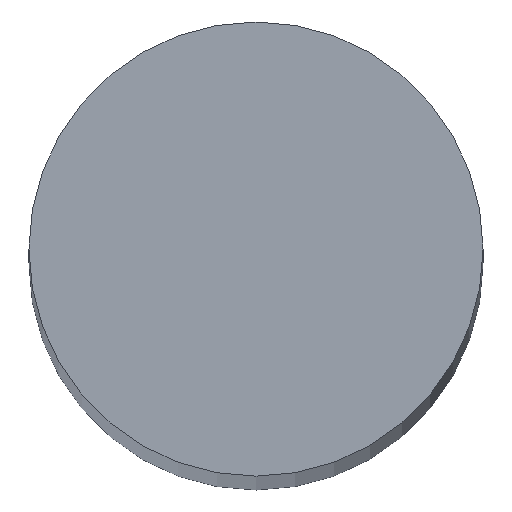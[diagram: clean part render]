
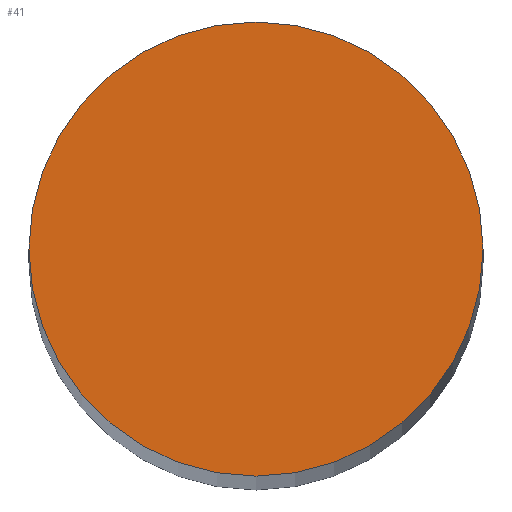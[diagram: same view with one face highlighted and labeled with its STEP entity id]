
A CAD part, top view. The second image highlights one B-rep face of the part: STEP entity #41.
In plain terms, the highlighted planar face has unit normal (0, 0, 1).
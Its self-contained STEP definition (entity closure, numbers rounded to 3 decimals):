
#16=PLANE('',#66);
#19=FACE_OUTER_BOUND('',#22,.T.);
#22=EDGE_LOOP('',(#37));
#25=CIRCLE('',#63,10.);
#27=VERTEX_POINT('',#82);
#29=EDGE_CURVE('',#27,#27,#25,.T.);
#37=ORIENTED_EDGE('',*,*,#29,.T.);
#41=ADVANCED_FACE('',(#19),#16,.T.);
#63=AXIS2_PLACEMENT_3D('',#83,#71,#72);
#66=AXIS2_PLACEMENT_3D('',#88,#78,#79);
#71=DIRECTION('center_axis',(0.,0.,1.));
#72=DIRECTION('ref_axis',(-1.,0.,0.));
#78=DIRECTION('center_axis',(0.,0.,1.));
#79=DIRECTION('ref_axis',(1.,0.,0.));
#82=CARTESIAN_POINT('',(10.,0.,350.));
#83=CARTESIAN_POINT('Origin',(0.,0.,350.));
#88=CARTESIAN_POINT('Origin',(0.,0.,350.));
